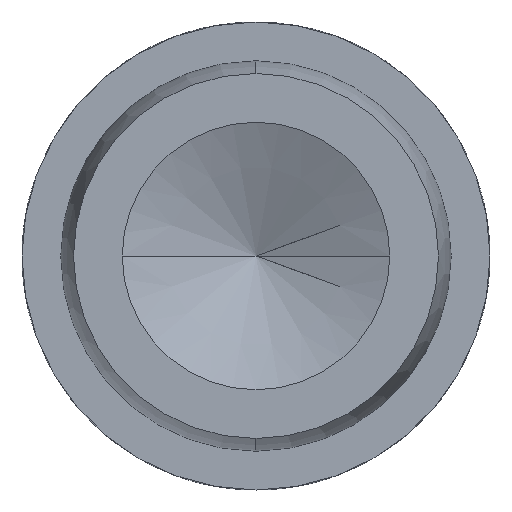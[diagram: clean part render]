
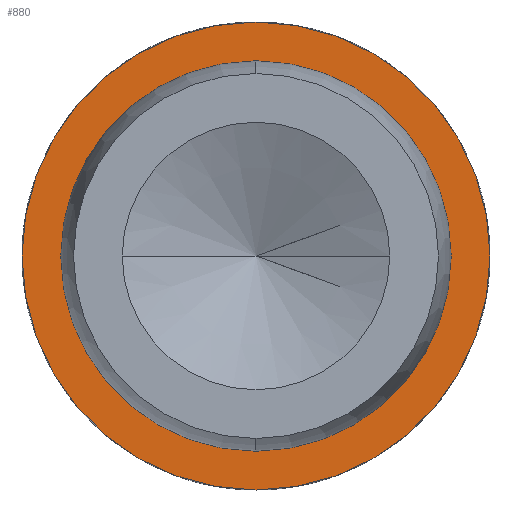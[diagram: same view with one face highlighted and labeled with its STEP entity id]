
A CAD part, left-side view. The second image highlights one B-rep face of the part: STEP entity #880.
In plain terms, the highlighted planar face has unit normal (-1, 0, 0).
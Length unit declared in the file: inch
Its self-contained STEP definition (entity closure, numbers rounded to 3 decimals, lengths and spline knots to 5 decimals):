
#183 = DIRECTION ( 'NONE',  ( -1., 0., 0. ) ) ;
#330 = CARTESIAN_POINT ( 'NONE',  ( -0.13048, 2.03858, 2.47298 ) ) ;
#392 = DIRECTION ( 'NONE',  ( -1., 0., 0. ) ) ;
#398 = CARTESIAN_POINT ( 'NONE',  ( -0.13048, 2.03858, 2.91048 ) ) ;
#468 = DIRECTION ( 'NONE',  ( 0., 0., 1. ) ) ;
#493 = CIRCLE ( 'NONE', #3521, 0.4375 ) ;
#514 = DIRECTION ( 'NONE',  ( 0., 0., 1. ) ) ;
#552 = EDGE_CURVE ( 'NONE', #1930, #2653, #2249, .T. ) ;
#718 = EDGE_CURVE ( 'NONE', #3119, #1518, #493, .T. ) ;
#842 = EDGE_CURVE ( 'NONE', #2653, #1930, #1095, .T. ) ;
#847 = EDGE_CURVE ( 'NONE', #1518, #3119, #3598, .T. ) ;
#880 = ADVANCED_FACE ( 'NONE', ( #2480, #3067 ), #2721, .T. ) ;
#1016 = CARTESIAN_POINT ( 'NONE',  ( -0.13048, 2.03858, 2.03548 ) ) ;
#1095 = CIRCLE ( 'NONE', #3215, 0.365 ) ;
#1198 = CARTESIAN_POINT ( 'NONE',  ( -0.13048, 2.03858, 2.10798 ) ) ;
#1202 = DIRECTION ( 'NONE',  ( -1., 0., 0. ) ) ;
#1299 = DIRECTION ( 'NONE',  ( 0., 0., 1. ) ) ;
#1373 = DIRECTION ( 'NONE',  ( 0., 0., 1. ) ) ;
#1518 = VERTEX_POINT ( 'NONE', #1016 ) ;
#1621 = ORIENTED_EDGE ( 'NONE', *, *, #842, .F. ) ;
#1930 = VERTEX_POINT ( 'NONE', #3370 ) ;
#2057 = CARTESIAN_POINT ( 'NONE',  ( -0.13048, 2.03858, 2.47298 ) ) ;
#2144 = CARTESIAN_POINT ( 'NONE',  ( -0.13048, 2.03858, 2.47298 ) ) ;
#2149 = ORIENTED_EDGE ( 'NONE', *, *, #718, .T. ) ;
#2167 = DIRECTION ( 'NONE',  ( 0., 0., 1. ) ) ;
#2176 = CARTESIAN_POINT ( 'NONE',  ( -0.13048, 2.03858, 2.47298 ) ) ;
#2249 = CIRCLE ( 'NONE', #3604, 0.365 ) ;
#2306 = ORIENTED_EDGE ( 'NONE', *, *, #847, .T. ) ;
#2310 = EDGE_LOOP ( 'NONE', ( #2149, #2306 ) ) ;
#2384 = EDGE_LOOP ( 'NONE', ( #2724, #1621 ) ) ;
#2423 = CARTESIAN_POINT ( 'NONE',  ( -0.13048, 2.03858, 2.10798 ) ) ;
#2475 = DIRECTION ( 'NONE',  ( -1., 0., 0. ) ) ;
#2480 = FACE_BOUND ( 'NONE', #2384, .T. ) ;
#2653 = VERTEX_POINT ( 'NONE', #1198 ) ;
#2721 = PLANE ( 'NONE',  #3066 ) ;
#2724 = ORIENTED_EDGE ( 'NONE', *, *, #552, .F. ) ;
#2791 = DIRECTION ( 'NONE',  ( -1., 0., 0. ) ) ;
#3066 = AXIS2_PLACEMENT_3D ( 'NONE', #2423, #392, #2167 ) ;
#3067 = FACE_OUTER_BOUND ( 'NONE', #2310, .T. ) ;
#3119 = VERTEX_POINT ( 'NONE', #398 ) ;
#3200 = AXIS2_PLACEMENT_3D ( 'NONE', #330, #2791, #468 ) ;
#3215 = AXIS2_PLACEMENT_3D ( 'NONE', #2057, #2475, #514 ) ;
#3370 = CARTESIAN_POINT ( 'NONE',  ( -0.13048, 2.03858, 2.83798 ) ) ;
#3521 = AXIS2_PLACEMENT_3D ( 'NONE', #2176, #1202, #1299 ) ;
#3598 = CIRCLE ( 'NONE', #3200, 0.4375 ) ;
#3604 = AXIS2_PLACEMENT_3D ( 'NONE', #2144, #183, #1373 ) ;
